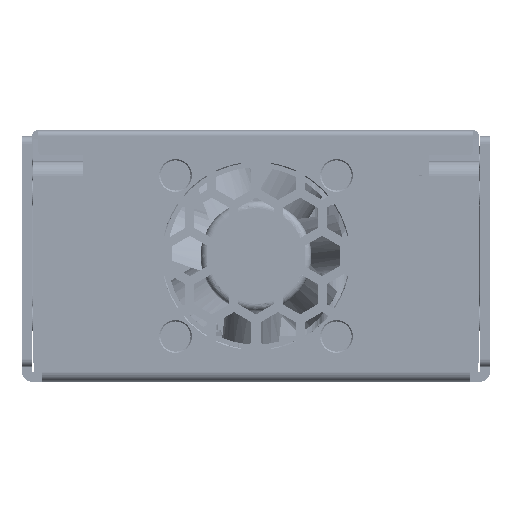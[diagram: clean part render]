
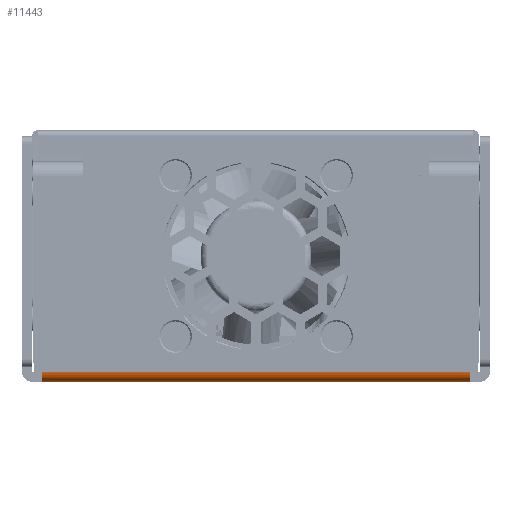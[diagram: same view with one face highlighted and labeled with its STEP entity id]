
A CAD part, left-side view. The second image highlights one B-rep face of the part: STEP entity #11443.
In plain terms, the highlighted cylindrical face has radius 2 mm (diameter 4 mm), a partial arc.
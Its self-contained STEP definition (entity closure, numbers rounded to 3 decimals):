
#2827=DIRECTION('',(0.,-1.,0.));
#2828=VECTOR('',#2827,85.);
#2829=CARTESIAN_POINT('',(2.,42.5,-2.));
#2830=LINE('',#2829,#2828);
#2831=CARTESIAN_POINT('',(2.,42.5,0.));
#2832=DIRECTION('',(0.,1.,0.));
#2833=DIRECTION('',(0.,0.,-1.));
#2834=AXIS2_PLACEMENT_3D('',#2831,#2832,#2833);
#2836=DIRECTION('',(0.,-1.,0.));
#2837=VECTOR('',#2836,85.);
#2838=CARTESIAN_POINT('',(0.,42.5,0.));
#2839=LINE('',#2838,#2837);
#2840=CARTESIAN_POINT('',(2.,-42.5,0.));
#2841=DIRECTION('',(0.,1.,0.));
#2842=DIRECTION('',(0.,0.,-1.));
#2843=AXIS2_PLACEMENT_3D('',#2840,#2841,#2842);
#7067=CARTESIAN_POINT('',(2.,-42.5,-2.));
#7068=VERTEX_POINT('',#7067);
#7069=CARTESIAN_POINT('',(2.,42.5,-2.));
#7071=VERTEX_POINT('',#7069);
#7083=CARTESIAN_POINT('',(0.,-42.5,0.));
#7085=VERTEX_POINT('',#7083);
#7087=CARTESIAN_POINT('',(0.,42.5,0.));
#7089=VERTEX_POINT('',#7087);
#11431=CARTESIAN_POINT('',(2.,44.4,0.));
#11432=DIRECTION('',(0.,-1.,0.));
#11433=DIRECTION('',(-1.,0.,0.));
#11434=AXIS2_PLACEMENT_3D('',#11431,#11432,#11433);
#11435=CYLINDRICAL_SURFACE('',#11434,2.);
#11436=ORIENTED_EDGE('',*,*,#9091,.F.);
#11437=ORIENTED_EDGE('',*,*,#11004,.T.);
#11439=ORIENTED_EDGE('',*,*,#11438,.T.);
#11440=ORIENTED_EDGE('',*,*,#11413,.F.);
#11441=EDGE_LOOP('',(#11436,#11437,#11439,#11440));
#11442=FACE_OUTER_BOUND('',#11441,.F.);
#2835=CIRCLE('',#2834,2.);
#2844=CIRCLE('',#2843,2.);
#9091=EDGE_CURVE('',#7071,#7068,#2830,.T.);
#11004=EDGE_CURVE('',#7071,#7089,#2835,.T.);
#11413=EDGE_CURVE('',#7068,#7085,#2844,.T.);
#11438=EDGE_CURVE('',#7089,#7085,#2839,.T.);
#11443=ADVANCED_FACE('',(#11442),#11435,.T.);
